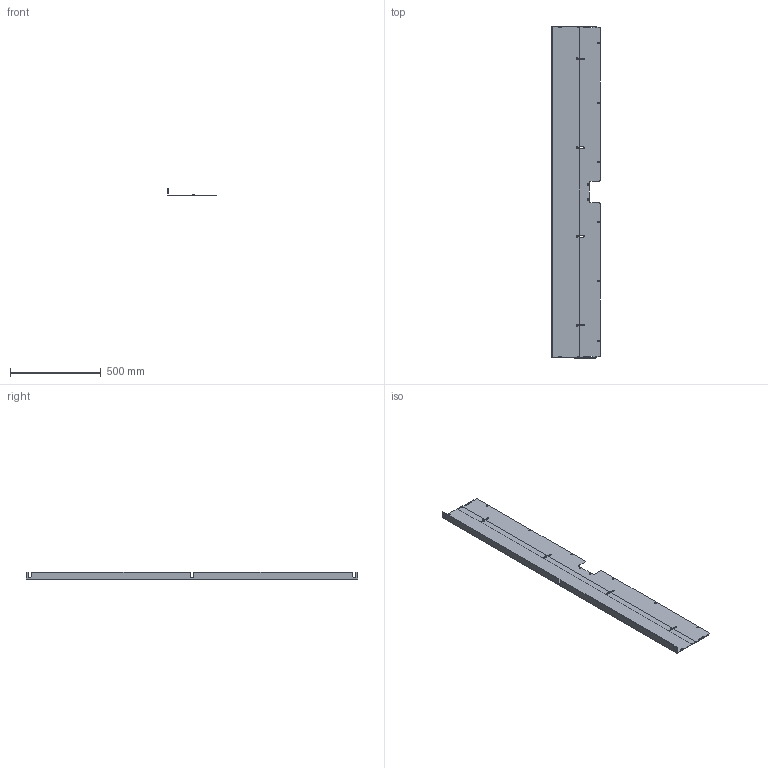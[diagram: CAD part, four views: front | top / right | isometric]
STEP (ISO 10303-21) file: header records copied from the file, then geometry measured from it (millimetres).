
FILE_DESCRIPTION((''),'2;1');
FILE_NAME('MODEL-282_ASM','2021-01-08T14:24:24',('dougp'),('SAGINAW CONTROL & ENGINEERING'),'CREO PARAMETRIC BY PTC INC, 2017260','CREO PARAMETRIC BY PTC INC, 2017260','');
FILE_SCHEMA(('AUTOMOTIVE_DESIGN { 1 0 10303 214 1 1 1 1 }'));
Length unit declared in the file: inch
Products named in the file (4): MODEL-282-FRONT-BARRIER; MODEL-282-REAR-BARRIER; 100032; MODEL-282_ASM
Assembly tree (6 placements, depth 2):
  MODEL-282_ASM
    MODEL-282-FRONT-BARRIER
    MODEL-282-REAR-BARRIER
    100032  x4
Bounding box: 265.18 x 1827.21 x 43.18 mm (x, y, z)
Volume: 1146949.4 mm3; surface area: 1222375.8 mm2
Topology: 6 solids, 6 shells, 202 faces, 526 edges, 340 vertices
Faces by surface type: cylinder 107, plane 71, cone 24
Entity records: 7792 total; most frequent: DIRECTION 954, CARTESIAN_POINT 902, ORIENTED_EDGE 872, PRESENTATION_STYLE_ASSIGNMENT 439, STYLED_ITEM 439, CURVE_STYLE 436, EDGE_CURVE 436, AXIS2_PLACEMENT_3D 351
